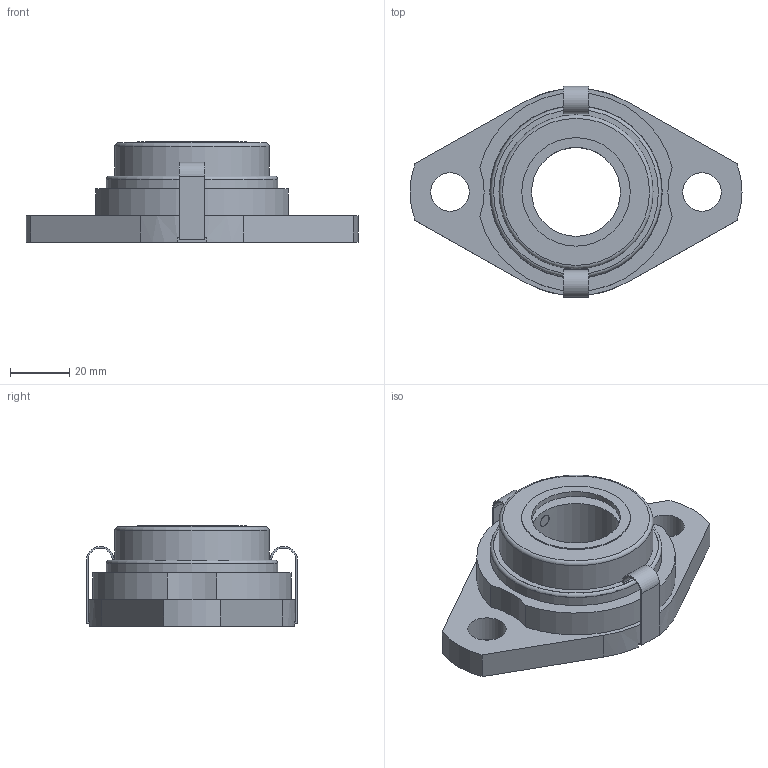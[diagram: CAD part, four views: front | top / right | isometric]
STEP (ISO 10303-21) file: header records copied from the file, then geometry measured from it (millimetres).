
FILE_DESCRIPTION((''),'2;1');
FILE_NAME('\\Ts-tgl068\J-Cad-D-BASE\00.3DCADデータ作成フォルダ\11.エコシリーズ\MUSFL000\MUSFL006C.stp','2014-11-12T09:51:17',('btec_1106_2'),(''),'Autodesk Inventor 2012','Autodesk Inventor 2012','');
FILE_SCHEMA(('AUTOMOTIVE_DESIGN { 1 0 10303 214 1 1 1 1 }'));
Length unit declared in the file: millimetre
Products named in the file (5): MUSFL006C(E); SFL006; U006; 06-7CP30; 6CLL
Assembly tree (5 placements, depth 2):
  MUSFL006C(E)
    SFL006
    U006
    06-7CP30
    6CLL  x2
Bounding box: 112 x 71.2 x 33.9 mm (x, y, z)
Volume: 63950.6 mm3; surface area: 35498.8 mm2
Topology: 5 solids, 5 shells, 113 faces, 270 edges, 177 vertices
Faces by surface type: plane 62, cylinder 41, cone 4, torus 4, sphere 2
Full cylindrical faces by diameter (mm): 3.5 x1, 4.134 x1, 13 x2, 30 x2, 36.6 x2, 38 x1, 42 x1, 51.4 x1, 52 x1, 57.2 x1, 57.8 x1, 58.2 x1
Entity records: 3078 total; most frequent: CARTESIAN_POINT 609, DIRECTION 520, ORIENTED_EDGE 420, EDGE_CURVE 210, AXIS2_PLACEMENT_3D 203, VERTEX_POINT 152, EDGE_LOOP 152, VECTOR 114
